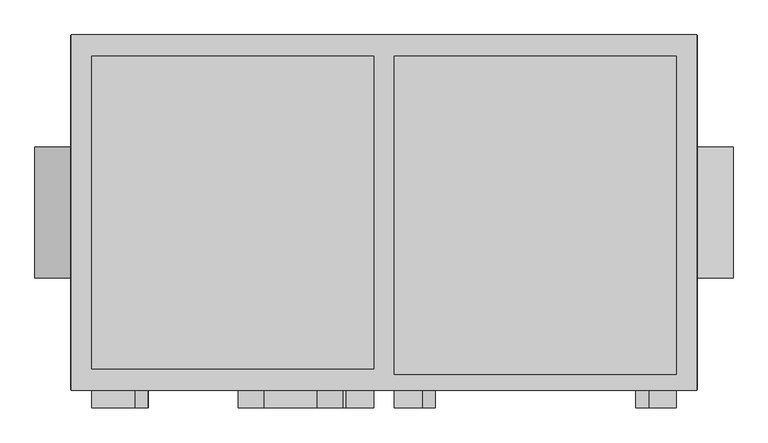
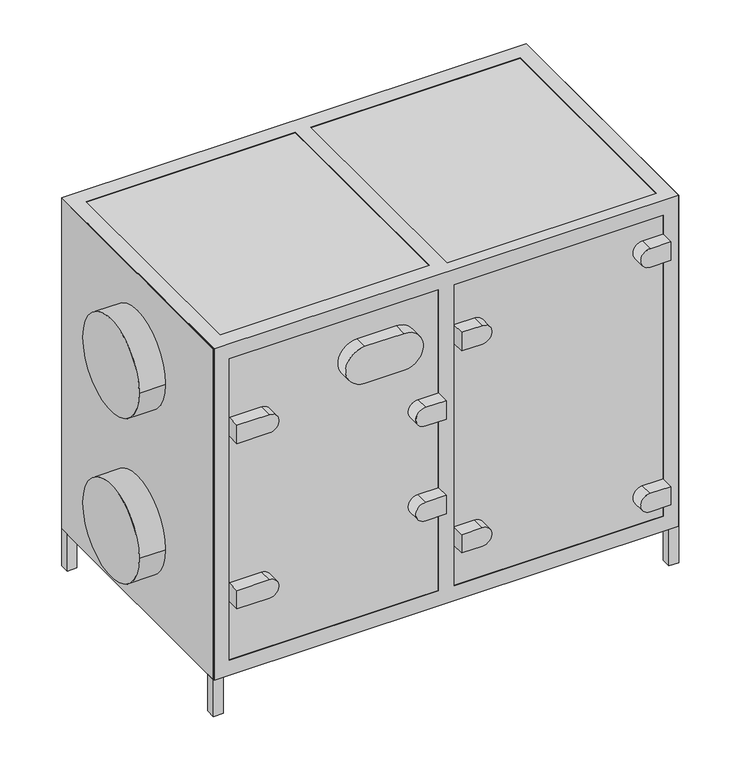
"""IFC4 building model written with IfcOpenShell, lengths in millimetres: proxy geometry, AVS 400...1600-S-RC(RG)-R : AVS 1100-S-RG-R."""

from ifc_helpers import new_model, si_unit, point, frame, frame_2d, origin, origin_with_axes, place, context, project, spatial, polyline, circle_curve, trimmed, segment, composite_curve, outline, extrude, faceted_brep, source, transform, mapped, element, save


def mechanical_equipment_43ca4bb2(model_context):
    return source(origin(), model_context, "Body", "SolidModel", [
        extrude(outline(polyline([(572.5, 338.0), (597.5, 338.0), (597.5, 313.0), (572.5, 313.0), (572.5, 338.0)])), origin_with_axes(), (0.0, 0.0, 1.0), 100.0),
        extrude(outline(polyline([(572.5, -338.0), (572.5, -313.0), (597.5, -313.0), (597.5, -338.0), (572.5, -338.0)])), origin_with_axes(), (0.0, 0.0, 1.0), 100.0),
        extrude(outline(polyline([(-597.5, 313.0), (-597.5, 338.0), (-572.5, 338.0), (-572.5, 313.0), (-597.5, 313.0)])), origin_with_axes(), (0.0, 0.0, 1.0), 100.0),
        extrude(outline(polyline([(-597.5, -313.0), (-572.5, -313.0), (-572.5, -338.0), (-597.5, -338.0), (-597.5, -313.0)])), origin_with_axes(), (0.0, 0.0, 1.0), 100.0),
        faceted_brep([(596.5, 339.0, 999.0), (-596.5, 339.0, 999.0), (-596.5, -339.0, 999.0), (596.5, -339.0, 999.0), (-557.5, 298.0, 999.0), (-20.0, 298.0, 999.0), (-20.0, -298.0, 999.0), (-557.5, -298.0, 999.0), (557.5, 298.0, 999.0), (557.5, -309.0, 999.0), (20.0, -309.0, 999.0), (20.0, 298.0, 999.0), (596.5, 339.0, 99.0), (596.5, -339.0, 99.0), (-596.5, -339.0, 99.0), (-596.5, 339.0, 99.0), (-20.0, 298.0, 99.0), (-557.5, 298.0, 99.0), (-557.5, -298.0, 99.0), (-20.0, -298.0, 99.0), (557.5, -309.0, 99.0), (557.5, 298.0, 99.0), (20.0, 298.0, 99.0), (20.0, -309.0, 99.0), (-20.0, 339.0, 958.0), (-557.5, 339.0, 958.0), (-557.5, 339.0, 140.0), (-20.0, 339.0, 140.0), (557.5, 339.0, 140.0), (557.5, 339.0, 958.0), (20.0, 339.0, 958.0), (20.0, 339.0, 140.0), (-596.5, -298.0, 958.0), (-596.5, -298.0, 140.0), (-596.5, 298.0, 140.0), (-596.5, 298.0, 958.0), (-557.5, -339.0, 958.0), (-20.0, -339.0, 958.0), (-20.0, -339.0, 140.0), (-557.5, -339.0, 140.0), (557.5, -339.0, 958.0), (557.5, -339.0, 140.0), (20.0, -339.0, 140.0), (20.0, -339.0, 958.0), (596.5, -298.0, 140.0), (596.5, -298.0, 958.0), (596.5, 298.0, 958.0), (596.5, 298.0, 140.0), (-557.5, 298.0, 958.0), (-20.0, 298.0, 958.0), (-20.0, 298.0, 140.0), (-557.5, 298.0, 140.0), (-20.0, -298.0, 958.0), (-557.5, -298.0, 958.0), (-557.5, -298.0, 140.0), (-20.0, -298.0, 140.0), (557.5, 298.0, 958.0), (557.5, -298.0, 958.0), (557.5, -298.0, 140.0), (557.5, 298.0, 140.0), (557.5, -309.0, 140.0), (557.5, -309.0, 958.0), (20.0, 298.0, 958.0), (20.0, -298.0, 958.0), (20.0, -298.0, 140.0), (20.0, 298.0, 140.0), (20.0, -309.0, 958.0), (20.0, -309.0, 140.0)], [[[0, 1, 2, 3], [4, 5, 6, 7], [8, 9, 10, 11]], [[12, 13, 14, 15], [16, 17, 18, 19], [20, 21, 22, 23]], [[1, 0, 12, 15], [24, 25, 26, 27], [28, 29, 30, 31]], [[2, 1, 15, 14], [32, 33, 34, 35]], [[3, 2, 14, 13], [36, 37, 38, 39], [40, 41, 42, 43]], [[0, 3, 13, 12], [44, 45, 46, 47]], [[5, 4, 48, 49]], [[17, 16, 50, 51]], [[7, 6, 52, 53]], [[19, 18, 54, 55]], [[9, 8, 56, 57, 58, 59, 21, 20, 60, 41, 40, 61]], [[56, 29, 28, 59]], [[35, 48, 53, 32]], [[56, 46, 45, 57]], [[49, 62, 63, 52]], [[51, 34, 33, 54]], [[47, 59, 58, 44]], [[55, 64, 65, 50]], [[36, 53, 52, 37]], [[24, 49, 48, 25]], [[54, 39, 38, 55]], [[50, 27, 26, 51]], [[32, 53, 54, 33]], [[57, 45, 44, 58]], [[52, 63, 64, 55]], [[48, 35, 34, 51]], [[62, 49, 50, 65]], [[59, 47, 46, 56]], [[4, 7, 53, 48]], [[18, 17, 51, 54]], [[53, 36, 39, 54]], [[25, 48, 51, 26]], [[6, 5, 49, 52]], [[16, 19, 55, 50]], [[37, 52, 55, 38]], [[49, 24, 27, 50]], [[8, 11, 62, 56]], [[22, 21, 59, 65]], [[11, 10, 66, 43, 42, 67, 23, 22, 65, 64, 63, 62]], [[30, 62, 65, 31]], [[10, 9, 61, 66]], [[20, 23, 67, 60]], [[61, 40, 43, 66]], [[29, 56, 62, 30]], [[41, 60, 67, 42]], [[59, 28, 31, 65]]]),
        extrude(outline(polyline([(-597.5, 338.0), (597.5, 338.0), (597.5, -338.0), (-597.5, -338.0), (-597.5, 338.0)])), frame((0.0, 0.0, 100.0), z_axis=(0.0, 0.0, 1.0), x_axis=(1.0, 0.0, 0.0)), (0.0, 0.0, 1.0), 898.0),
        extrude(outline(composite_curve([segment(polyline([(798.5, -474.7895396), (798.5, -557.5), (748.5, -557.5), (748.5, -474.7895396)]), True, "CONTINUOUS"), segment(trimmed(circle_curve(frame_2d((773.5, -474.7895396)), 25.0), [point((748.5, -474.7895396))], [point((798.5, -474.7895396))], False, "CARTESIAN"), True, "CONTINUOUS")], self_intersect=False)), frame((0.0, -373.0, 0.0), z_axis=(0.0, 1.0, 0.0), x_axis=(0.0, 0.0, 1.0)), (0.0, 0.0, 1.0), 35.0),
        extrude(outline(composite_curve([segment(polyline([(349.5, -474.7895396), (349.5, -557.5), (299.5, -557.5), (299.5, -474.7895396)]), True, "CONTINUOUS"), segment(trimmed(circle_curve(frame_2d((324.5, -474.7895396)), 25.0), [point((299.5, -474.7895396))], [point((349.5, -474.7895396))], False, "CARTESIAN"), True, "CONTINUOUS")], self_intersect=False)), frame((0.0, -373.0, 0.0), z_axis=(0.0, 1.0, 0.0), x_axis=(0.0, 0.0, 1.0)), (0.0, 0.0, 1.0), 35.0),
        extrude(outline(composite_curve([segment(trimmed(circle_curve(frame_2d((652.0, -72.7104604)), 25.0), [point((677.0, -72.7104604))], [point((627.0, -72.7104604))], False, "CARTESIAN"), True, "CONTINUOUS"), segment(polyline([(627.0, -72.7104604), (627.0, -20.0), (677.0, -20.0), (677.0, -72.7104604)]), True, "CONTINUOUS")], self_intersect=False)), frame((0.0, -373.0, 0.0), z_axis=(0.0, 1.0, 0.0), x_axis=(0.0, 0.0, 1.0)), (0.0, 0.0, 1.0), 35.0),
        extrude(outline(composite_curve([segment(polyline([(369.5, -72.7104604), (369.5, -20.0), (419.5, -20.0), (419.5, -72.7104604)]), True, "CONTINUOUS"), segment(trimmed(circle_curve(frame_2d((394.5, -72.7104604)), 25.0), [point((419.5, -72.7104604))], [point((369.5, -72.7104604))], False, "CARTESIAN"), True, "CONTINUOUS")], self_intersect=False)), frame((0.0, -373.0, 0.0), z_axis=(0.0, 1.0, 0.0), x_axis=(0.0, 0.0, 1.0)), (0.0, 0.0, 1.0), 35.0),
        extrude(outline(composite_curve([segment(trimmed(circle_curve(frame_2d((881.5, 504.7895396)), 25.0), [point((906.5, 504.7895396))], [point((856.5, 504.7895396))], False, "CARTESIAN"), True, "CONTINUOUS"), segment(polyline([(856.5, 504.7895396), (856.5, 557.5), (906.5, 557.5), (906.5, 504.7895396)]), True, "CONTINUOUS")], self_intersect=False)), frame((0.0, -373.0, 0.0), z_axis=(0.0, 1.0, 0.0), x_axis=(0.0, 0.0, 1.0)), (0.0, 0.0, 1.0), 35.0),
        extrude(outline(composite_curve([segment(polyline([(191.5, 504.7895396), (191.5, 557.5), (241.5, 557.5), (241.5, 504.7895396)]), True, "CONTINUOUS"), segment(trimmed(circle_curve(frame_2d((216.5, 504.7895396)), 25.0), [point((241.5, 504.7895396))], [point((191.5, 504.7895396))], False, "CARTESIAN"), True, "CONTINUOUS")], self_intersect=False)), frame((0.0, -373.0, 0.0), z_axis=(0.0, 1.0, 0.0), x_axis=(0.0, 0.0, 1.0)), (0.0, 0.0, 1.0), 35.0),
        extrude(outline(composite_curve([segment(polyline([(848.5, 72.7104604), (848.5, 20.0), (798.5, 20.0), (798.5, 72.7104604)]), True, "CONTINUOUS"), segment(trimmed(circle_curve(frame_2d((823.5, 72.7104604)), 25.0), [point((798.5, 72.7104604))], [point((848.5, 72.7104604))], False, "CARTESIAN"), True, "CONTINUOUS")], self_intersect=False)), frame((0.0, -373.0, 0.0), z_axis=(0.0, 1.0, 0.0), x_axis=(0.0, 0.0, 1.0)), (0.0, 0.0, 1.0), 35.0),
        extrude(outline(composite_curve([segment(trimmed(circle_curve(frame_2d((274.5, 72.7104604)), 25.0), [point((249.5, 72.7104604))], [point((299.5, 72.7104604))], False, "CARTESIAN"), True, "CONTINUOUS"), segment(polyline([(299.5, 72.7104604), (299.5, 20.0), (249.5, 20.0), (249.5, 72.7104604)]), True, "CONTINUOUS")], self_intersect=False)), frame((0.0, -373.0, 0.0), z_axis=(0.0, 1.0, 0.0), x_axis=(0.0, 0.0, 1.0)), (0.0, 0.0, 1.0), 35.0),
        extrude(outline(composite_curve([segment(polyline([(897.4531077, -128.4249776), (897.4531077, -228.4249776)]), True, "CONTINUOUS"), segment(trimmed(circle_curve(frame_2d((847.4531077, -228.4249776)), 50.0), [point((897.4531077, -228.4249776))], [point((797.4531077, -228.4249776))], False, "CARTESIAN"), True, "CONTINUOUS"), segment(polyline([(797.4531077, -228.4249776), (797.4531077, -128.4249776)]), True, "CONTINUOUS"), segment(trimmed(circle_curve(frame_2d((847.4531077, -128.4249776)), 50.0), [point((797.4531077, -128.4249776))], [point((897.4531077, -128.4249776))], False, "CARTESIAN"), True, "CONTINUOUS")], self_intersect=False)), frame((0.0, -373.0, 0.0), z_axis=(0.0, 1.0, 0.0), x_axis=(0.0, 0.0, 1.0)), (0.0, 0.0, 1.0), 35.0),
        extrude(outline(composite_curve([segment(trimmed(circle_curve(frame_2d((0.0, 773.5)), 125.0), [point((-125.0, 773.5))], [point((125.0, 773.5))], False, "CARTESIAN"), True, "CONTINUOUS"), segment(trimmed(circle_curve(frame_2d((0.0, 773.5)), 125.0), [point((125.0, 773.5))], [point((-125.0, 773.5))], False, "CARTESIAN"), True, "CONTINUOUS")], self_intersect=False)), frame((-665.5, 0.0, 0.0), z_axis=(1.0, 0.0, 0.0), x_axis=(0.0, 1.0, 0.0)), (0.0, 0.0, 1.0), 68.0),
        extrude(outline(composite_curve([segment(trimmed(circle_curve(frame_2d((0.0, 324.5)), 125.0), [point((-125.0, 324.5))], [point((125.0, 324.5))], False, "CARTESIAN"), True, "CONTINUOUS"), segment(trimmed(circle_curve(frame_2d((0.0, 324.5)), 125.0), [point((125.0, 324.5))], [point((-125.0, 324.5))], False, "CARTESIAN"), True, "CONTINUOUS")], self_intersect=False)), frame((-665.5, 0.0, 0.0), z_axis=(1.0, 0.0, 0.0), x_axis=(0.0, 1.0, 0.0)), (0.0, 0.0, 1.0), 68.0),
        extrude(outline(composite_curve([segment(trimmed(circle_curve(frame_2d((0.0, 773.5)), 125.0), [point((-125.0, 773.5))], [point((125.0, 773.5))], False, "CARTESIAN"), True, "CONTINUOUS"), segment(trimmed(circle_curve(frame_2d((0.0, 773.5)), 125.0), [point((125.0, 773.5))], [point((-125.0, 773.5))], False, "CARTESIAN"), True, "CONTINUOUS")], self_intersect=False)), frame((597.5, 0.0, 0.0), z_axis=(1.0, 0.0, 0.0), x_axis=(0.0, 1.0, 0.0)), (0.0, 0.0, 1.0), 68.0),
        extrude(outline(composite_curve([segment(trimmed(circle_curve(frame_2d((0.0, 324.5)), 125.0), [point((-125.0, 324.5))], [point((125.0, 324.5))], False, "CARTESIAN"), True, "CONTINUOUS"), segment(trimmed(circle_curve(frame_2d((0.0, 324.5)), 125.0), [point((125.0, 324.5))], [point((-125.0, 324.5))], False, "CARTESIAN"), True, "CONTINUOUS")], self_intersect=False)), frame((597.5, 0.0, 0.0), z_axis=(1.0, 0.0, 0.0), x_axis=(0.0, 1.0, 0.0)), (0.0, 0.0, 1.0), 68.0),
    ])


if __name__ == "__main__":
    model = new_model("IFC4")
    model_context = context("Model", 3, world=origin())
    ifc_project = project(units=[si_unit("LENGTHUNIT", "METRE", prefix="MILLI")], contexts=[model_context])
    site = spatial("IfcSite", under=ifc_project)
    building = spatial("IfcBuilding", under=site)
    placement = place(None, origin())
    mechanical_equipment_shape = mechanical_equipment_43ca4bb2(model_context)
    element("IfcBuildingElementProxy", 1, Name="AVS 400...1600-S-RC(RG)-R : AVS 1100-S-RG-R", ObjectType="AVS 400...1600-S-RC(RG)-R : AVS 1100-S-RG-R", at=placement, inside=building, context=model_context, shape_type="MappedRepresentation", body=[
        mapped(mechanical_equipment_shape, transform((0.0, 0.0, 0.0), x_axis=(1.0, 0.0, 0.0), y_axis=(0.0, 1.0, 0.0), z_axis=(0.0, 0.0, 1.0))),
    ])
    save(model, "model.ifc")
